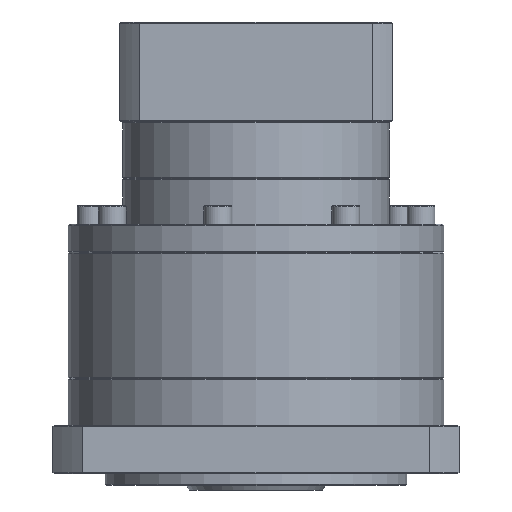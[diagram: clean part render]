
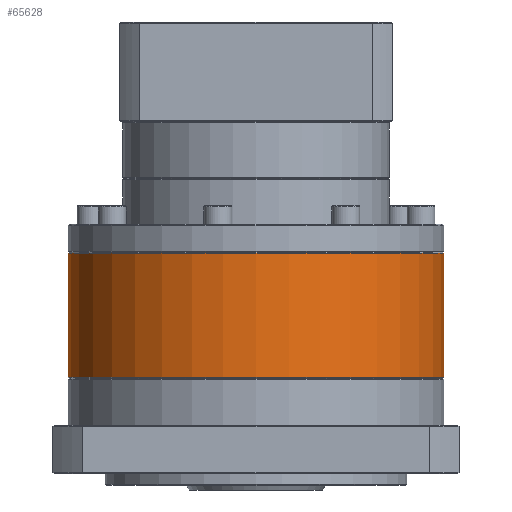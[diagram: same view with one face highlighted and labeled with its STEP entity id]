
A CAD part, front view. The second image highlights one B-rep face of the part: STEP entity #65628.
In plain terms, the highlighted cylindrical face has radius 81 mm (diameter 162 mm), a partial arc.
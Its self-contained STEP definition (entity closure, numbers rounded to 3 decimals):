
#6536 = VERTEX_POINT ( 'NONE', #90793 ) ;
#7084 = DIRECTION ( 'NONE',  ( 0., 0., -1. ) ) ;
#7193 = CARTESIAN_POINT ( 'NONE',  ( -136.343, 94.399, -146.147 ) ) ;
#19029 = CARTESIAN_POINT ( 'NONE',  ( -136.343, 13.399, -92.647 ) ) ;
#19349 = CARTESIAN_POINT ( 'NONE',  ( -136.343, 94.399, -92.647 ) ) ;
#20526 = CARTESIAN_POINT ( 'NONE',  ( -55.343, 94.399, -92.147 ) ) ;
#20921 = AXIS2_PLACEMENT_3D ( 'NONE', #7193, #80662, #133039 ) ;
#21778 = DIRECTION ( 'NONE',  ( 0., 0., -1. ) ) ;
#25122 = VECTOR ( 'NONE', #31113, 1000. ) ;
#26402 = AXIS2_PLACEMENT_3D ( 'NONE', #69968, #7084, #58939 ) ;
#31113 = DIRECTION ( 'NONE',  ( 0., 0., -1. ) ) ;
#31565 = EDGE_CURVE ( 'NONE', #49408, #92903, #33526, .T. ) ;
#33526 = CIRCLE ( 'NONE', #134633, 81. ) ;
#39106 = CARTESIAN_POINT ( 'NONE',  ( -217.343, 94.399, -146.147 ) ) ;
#41317 = VERTEX_POINT ( 'NONE', #39106 ) ;
#42059 = VECTOR ( 'NONE', #21778, 1000. ) ;
#43080 = ORIENTED_EDGE ( 'NONE', *, *, #87960, .T. ) ;
#43840 = CIRCLE ( 'NONE', #20921, 81. ) ;
#44757 = LINE ( 'NONE', #20526, #25122 ) ;
#46937 = LINE ( 'NONE', #115399, #42059 ) ;
#48774 = CARTESIAN_POINT ( 'NONE',  ( -55.343, 94.399, -146.147 ) ) ;
#49408 = VERTEX_POINT ( 'NONE', #103672 ) ;
#55058 = DIRECTION ( 'NONE',  ( 0., 0., -1. ) ) ;
#58939 = DIRECTION ( 'NONE',  ( -1., 0., 0. ) ) ;
#59780 = FACE_OUTER_BOUND ( 'NONE', #122825, .T. ) ;
#64672 = CYLINDRICAL_SURFACE ( 'NONE', #26402, 81. ) ;
#65628 = ADVANCED_FACE ( 'NONE', ( #59780 ), #64672, .T. ) ;
#65850 = ORIENTED_EDGE ( 'NONE', *, *, #86990, .T. ) ;
#69968 = CARTESIAN_POINT ( 'NONE',  ( -136.343, 94.399, -92.147 ) ) ;
#80662 = DIRECTION ( 'NONE',  ( 0., 0., -1. ) ) ;
#81323 = DIRECTION ( 'NONE',  ( 0., 0., -1. ) ) ;
#86990 = EDGE_CURVE ( 'NONE', #92903, #6536, #90033, .T. ) ;
#87960 = EDGE_CURVE ( 'NONE', #6536, #41317, #46937, .T. ) ;
#90033 = CIRCLE ( 'NONE', #112244, 81. ) ;
#90793 = CARTESIAN_POINT ( 'NONE',  ( -217.343, 94.399, -92.647 ) ) ;
#92531 = EDGE_CURVE ( 'NONE', #49408, #124363, #44757, .T. ) ;
#92867 = ORIENTED_EDGE ( 'NONE', *, *, #31565, .T. ) ;
#92903 = VERTEX_POINT ( 'NONE', #19029 ) ;
#96717 = DIRECTION ( 'NONE',  ( -1., 0., 0. ) ) ;
#96996 = ORIENTED_EDGE ( 'NONE', *, *, #125120, .F. ) ;
#103672 = CARTESIAN_POINT ( 'NONE',  ( -55.343, 94.399, -92.647 ) ) ;
#112244 = AXIS2_PLACEMENT_3D ( 'NONE', #19349, #81323, #123582 ) ;
#115399 = CARTESIAN_POINT ( 'NONE',  ( -217.343, 94.399, -92.147 ) ) ;
#117920 = CARTESIAN_POINT ( 'NONE',  ( -136.343, 94.399, -92.647 ) ) ;
#122825 = EDGE_LOOP ( 'NONE', ( #127659, #92867, #65850, #43080, #96996 ) ) ;
#123582 = DIRECTION ( 'NONE',  ( -1., 0., 0. ) ) ;
#124363 = VERTEX_POINT ( 'NONE', #48774 ) ;
#125120 = EDGE_CURVE ( 'NONE', #124363, #41317, #43840, .T. ) ;
#127659 = ORIENTED_EDGE ( 'NONE', *, *, #92531, .F. ) ;
#133039 = DIRECTION ( 'NONE',  ( 1., 0., 0. ) ) ;
#134633 = AXIS2_PLACEMENT_3D ( 'NONE', #117920, #55058, #96717 ) ;
